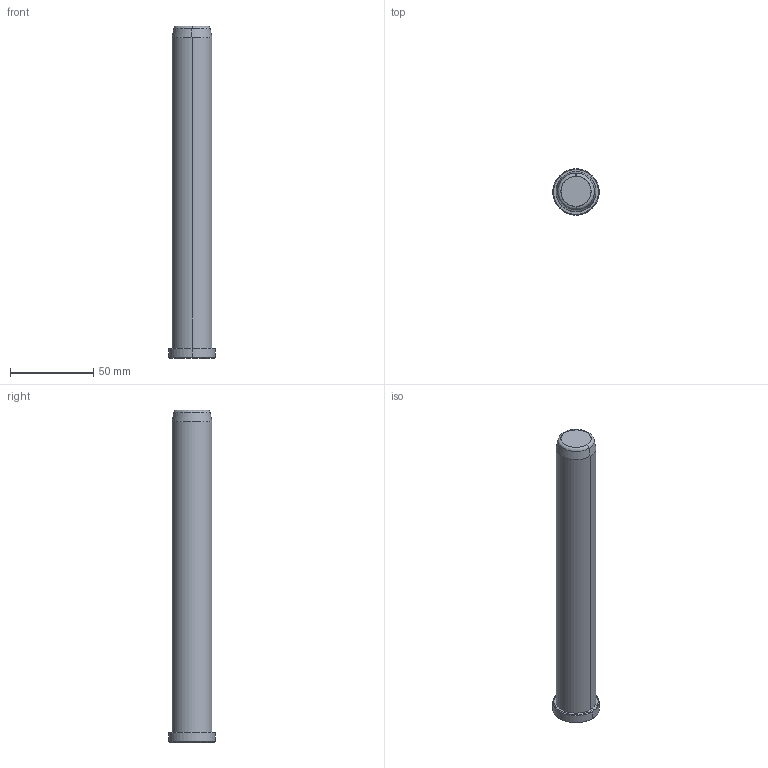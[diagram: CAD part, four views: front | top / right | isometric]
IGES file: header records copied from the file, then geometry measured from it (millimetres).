
Start section: START RECORD GO HERE.
Global section: file name: B81824200.igs; native system: DASSAULT SYSTEMES CATIA V5 R20 - www.3ds.com; preprocessor: CATIA Version 5 Release 20 ; author: Utente; organization: NB04-ASUS; date: 20200419.172158; units: millimetre
Bounding box: 28 x 28 x 200 mm (x, y, z)
Surface area: 16187.2 mm2 (no closed solid volume)
Topology: 0 solids, 0 shells, 17 faces, 68 edges, 68 vertices
Faces by surface type: revolution 14, plane 3
